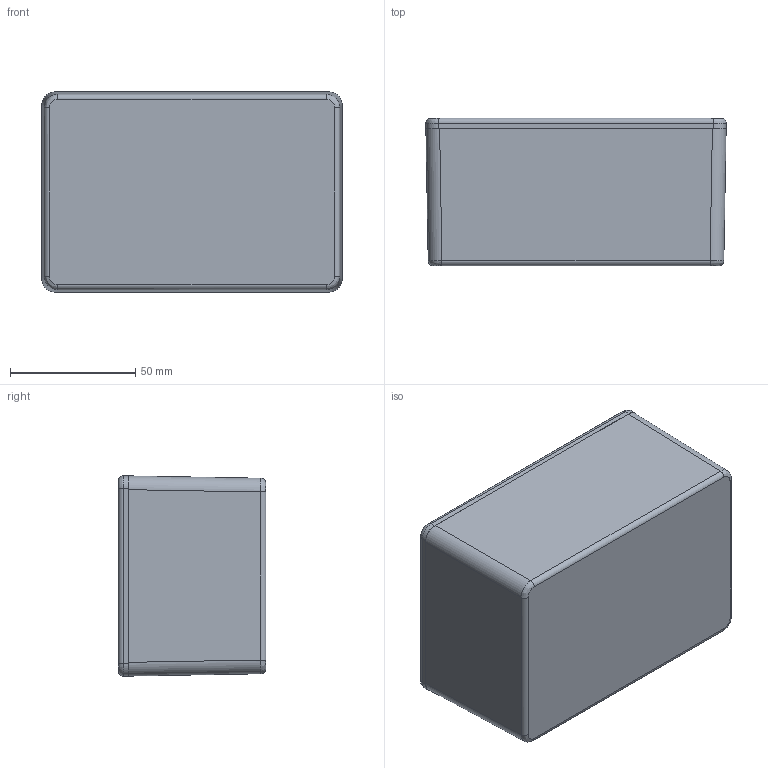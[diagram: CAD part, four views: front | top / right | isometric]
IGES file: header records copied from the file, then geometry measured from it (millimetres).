
Global section: file name: 1590T.iam; native system: Autodesk Inventor 2014; preprocessor: unknown; author: mbeerman; date: 20140728.134949; units: millimetre
Bounding box: 120 x 59 x 80 mm (x, y, z)
Volume: 97960.8 mm3; surface area: 82771.4 mm2
Topology: 6 solids, 6 shells, 451 faces, 1183 edges, 772 vertices
Faces by surface type: plane 240, bspline 87, revolution 84, cylinder 32, cone 8
Full cylindrical faces by diameter (mm): 3.378 x4
